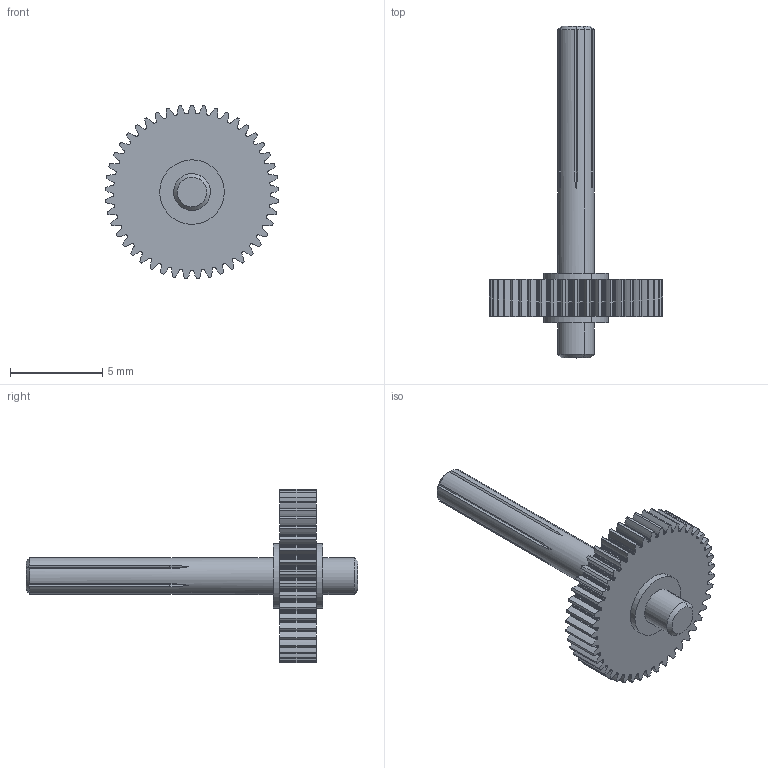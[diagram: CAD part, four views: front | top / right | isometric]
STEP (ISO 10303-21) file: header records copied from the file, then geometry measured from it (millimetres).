
FILE_DESCRIPTION(('CATIA V5 STEP Exchange'),'2;1');
FILE_NAME('C:\model\lock-001.45.029.41_1.1.1.1.stp','2022-08-26T10:53:56+00:00',('none'),('none'),'CATIA Version 5 Release 19 SP 8 (IN-10)','CATIA V5 STEP AP214','none');
FILE_SCHEMA(('AUTOMOTIVE_DESIGN { 1 0 10303 214 1 1 1 1 }'));
Length unit declared in the file: millimetre
Products named in the file (1): lock-001.45.029.41_1.1.1.1
Bounding box: 9.43 x 18 x 9.43 mm (x, y, z)
Volume: 180.8 mm3; surface area: 345.9 mm2
Topology: 1 solids, 1 shells, 537 faces, 1763 edges, 1232 vertices
Faces by surface type: bspline 450, cylinder 53, plane 18, cone 16
Entity records: 21630 total; most frequent: CARTESIAN_POINT 10416, ORIENTED_EDGE 3526, EDGE_CURVE 1763, B_SPLINE_CURVE_WITH_KNOTS 1509, VERTEX_POINT 1232, EDGE_LOOP 541, ADVANCED_FACE 537, FACE_OUTER_BOUND 537
